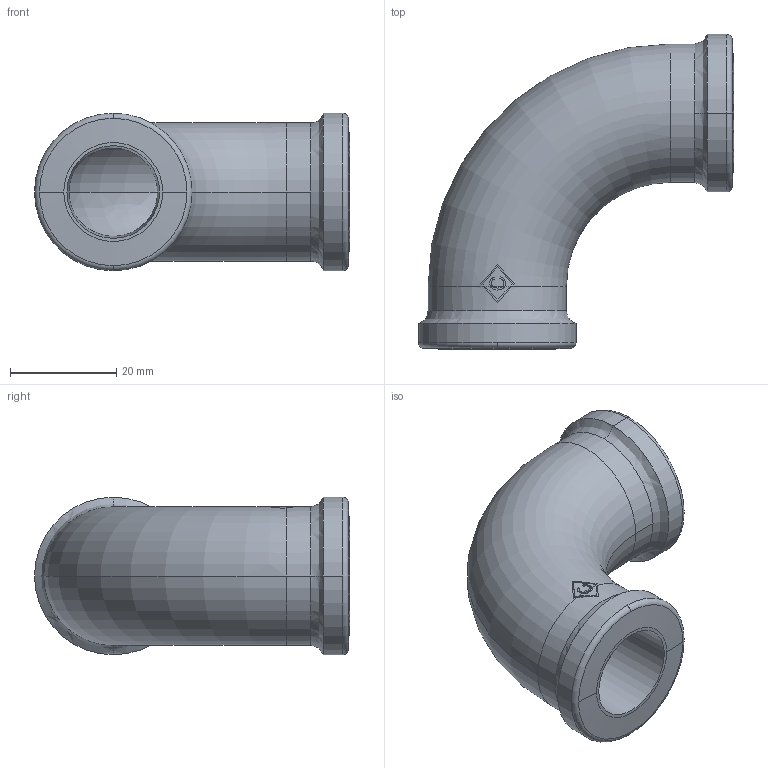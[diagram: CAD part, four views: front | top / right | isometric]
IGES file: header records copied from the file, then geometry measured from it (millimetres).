
Global section: file name: No Iges File Name specified; native system: AutoDesk Inventor R12.0; preprocessor: AutoDesk Inventor Iges Exporter R12.0; date: 20090917.093138; units: millimetre
Bounding box: 59.2 x 59.2 x 29.6 mm (x, y, z)
Volume: 18534.8 mm3; surface area: 11864.7 mm2
Topology: 1 solids, 1 shells, 58 faces, 155 edges, 99 vertices
Faces by surface type: bspline 14, cylinder 12, plane 12, torus 10, revolution 6, cone 4
